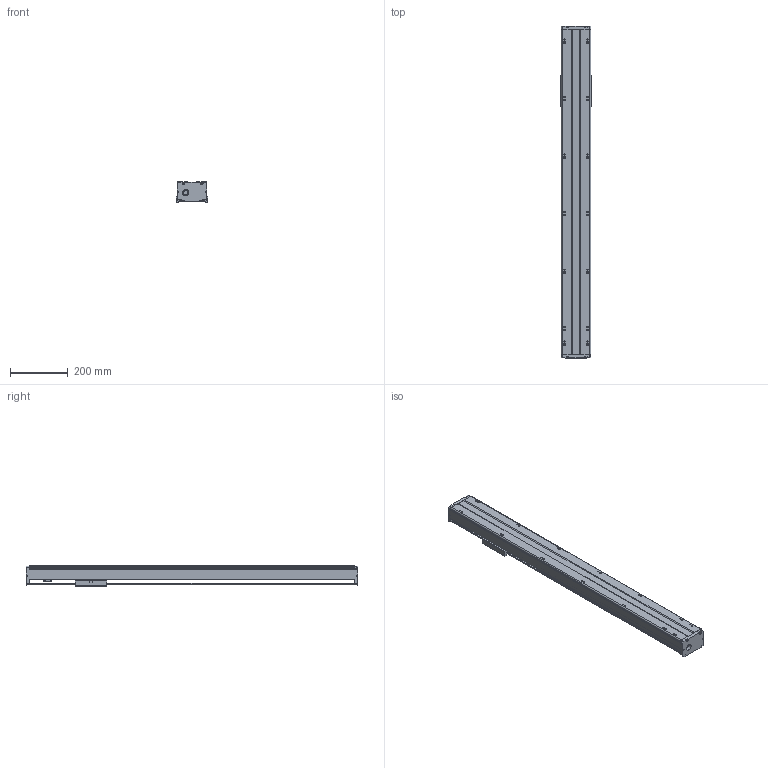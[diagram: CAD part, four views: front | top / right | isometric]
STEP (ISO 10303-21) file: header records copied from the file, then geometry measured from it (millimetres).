
FILE_DESCRIPTION(/* description */ (''),/* implementation_level */ '2;1');
FILE_NAME(/* name */ 'TKA100-900A1F0_asm1.stp',/* time_stamp */ '2017-02-20T16:26:21+08:00',/* author */ (''),/* organization */ (''),/* preprocessor_version */ 'ST-DEVELOPER v15',/* originating_system */ 'SIEMENS PLM Software NX 8.5',/* authorisation */ '');
FILE_SCHEMA (('AUTOMOTIVE_DESIGN { 1 0 10303 214 3 1 1 1 }'));
Length unit declared in the file: millimetre
Products named in the file (3): 200-02; 200-01; TKA100-900A1F0_asm1_stp
Assembly tree (2 placements, depth 2):
  TKA100-900A1F0_asm1_stp
    200-01
    200-02
Bounding box: 110 x 1154 x 71 mm (x, y, z)
Volume: 2354652.4 mm3; surface area: 784194.6 mm2
Topology: 2 solids, 10 shells, 709 faces, 1881 edges, 1230 vertices
Faces by surface type: cylinder 279, plane 263, cone 114, torus 27, bspline 26
Full cylindrical faces by diameter (mm): 2.5 x6, 2.6 x8, 3.3 x8, 3.4 x8, 3.8 x4, 4.2 x23, 4.3 x4, 4.5 x4, 5 x1, 5.5 x22, 6.6 x4, 8 x5, 9 x4, 10 x14, 11 x4, 12 x6, 12.05 x2, 15.3 x1, 15.4 x1, 16 x1, 17 x2, 18 x1, 22 x1, 24 x1, 28 x5, 30 x1
Entity records: 26348 total; most frequent: CARTESIAN_POINT 9902, DIRECTION 3363, ORIENTED_EDGE 3108, EDGE_CURVE 1554, AXIS2_PLACEMENT_3D 1355, VERTEX_POINT 1151, EDGE_LOOP 1046, ADVANCED_FACE 709
